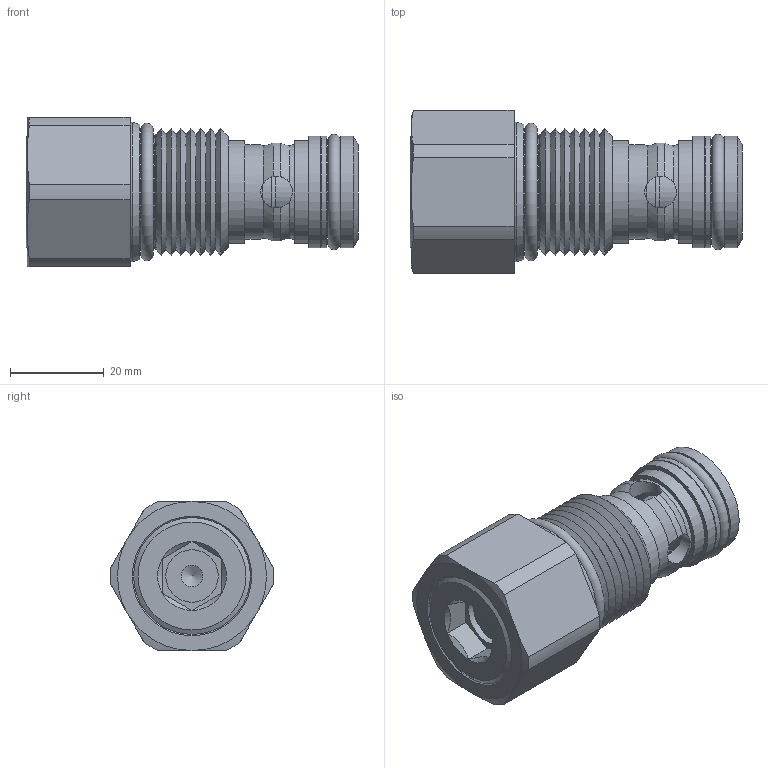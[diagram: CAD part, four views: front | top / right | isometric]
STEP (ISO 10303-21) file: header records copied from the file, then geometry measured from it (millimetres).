
FILE_DESCRIPTION(/* description */ ('HTT-CVR-00-0050'),/* implementation_level */ '2;1');
FILE_NAME(/* name */ 'P:\EARS\EAR16xx\EAR1683 - catalog pages changes\Group1_Distribution 11_22_22\RTeck Agency_Tom\_step files\HTTCVR00.stp',/* time_stamp */ '2023-01-03T09:07:32-06:00',/* author */ ('Michael'),/* organization */ (''),/* preprocessor_version */ 'ST-DEVELOPER v17.2',/* originating_system */ 'Autodesk Inventor 2019',/* authorisation */ '');
FILE_SCHEMA (('AUTOMOTIVE_DESIGN { 1 0 10303 214 3 1 1 }'));
Length unit declared in the file: inch
Products named in the file (1): 88410016
Bounding box: 70.69 x 34.91 x 31.75 mm (x, y, z)
Volume: 37609.9 mm3; surface area: 12444.7 mm2
Topology: 4 solids, 4 shells, 129 faces, 297 edges, 186 vertices
Faces by surface type: cone 51, cylinder 36, plane 36, torus 6
Full cylindrical faces by diameter (mm): 1.587 x1, 6.782 x4, 6.909 x1, 10.312 x1, 11.163 x1, 11.608 x1, 13.245 x1, 14.224 x1, 14.261 x2, 14.296 x1, 14.859 x1, 19.304 x1, 19.355 x1, 20.015 x2, 21.844 x2, 23.724 x3, 24.003 x1, 29.718 x1
Entity records: 4167 total; most frequent: CARTESIAN_POINT 1020, DIRECTION 643, ORIENTED_EDGE 592, EDGE_CURVE 296, AXIS2_PLACEMENT_3D 280, VERTEX_POINT 186, EDGE_LOOP 155, CIRCLE 150
